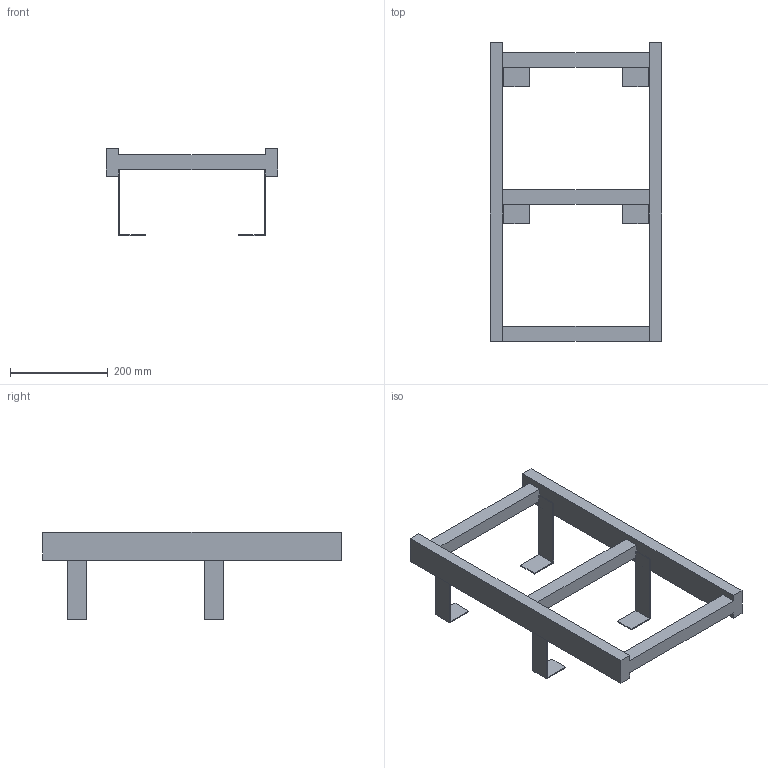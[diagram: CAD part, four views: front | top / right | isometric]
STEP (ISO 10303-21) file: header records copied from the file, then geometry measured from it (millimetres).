
FILE_DESCRIPTION((''),'2;1');
FILE_NAME('017_000109','2017-06-12T',('set'),('HUBER SE'),'PRO/ENGINEER BY PARAMETRIC TECHNOLOGY CORPORATION, 2015280','PRO/ENGINEER BY PARAMETRIC TECHNOLOGY CORPORATION, 2015280','');
FILE_SCHEMA(('CONFIG_CONTROL_DESIGN'));
Length unit declared in the file: millimetre
Products named in the file (1): 017_000109
Bounding box: 350 x 610 x 178.5 mm (x, y, z)
Volume: 2613460 mm3; surface area: 367868 mm2
Topology: 1 solids, 1 shells, 54 faces, 257 edges, 201 vertices
Faces by surface type: plane 54
Entity records: 2406 total; most frequent: CARTESIAN_POINT 556, DIRECTION 326, ORIENTED_EDGE 312, VECTOR 210, LINE 210, EDGE_CURVE 156, COMPOSITE_CURVE_SEGMENT 101, VERTEX_POINT 100
